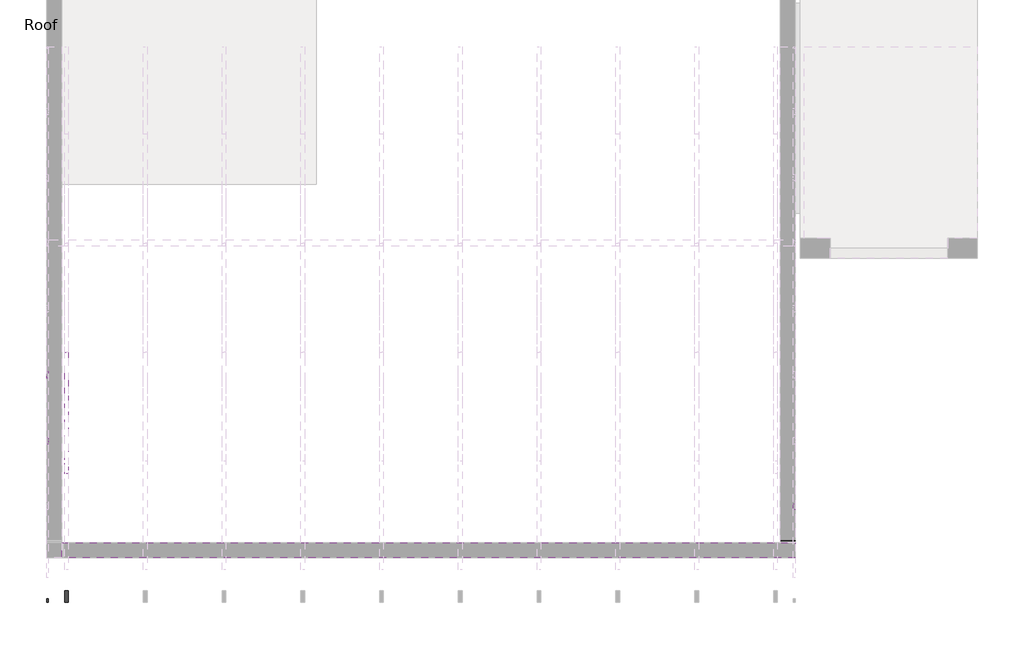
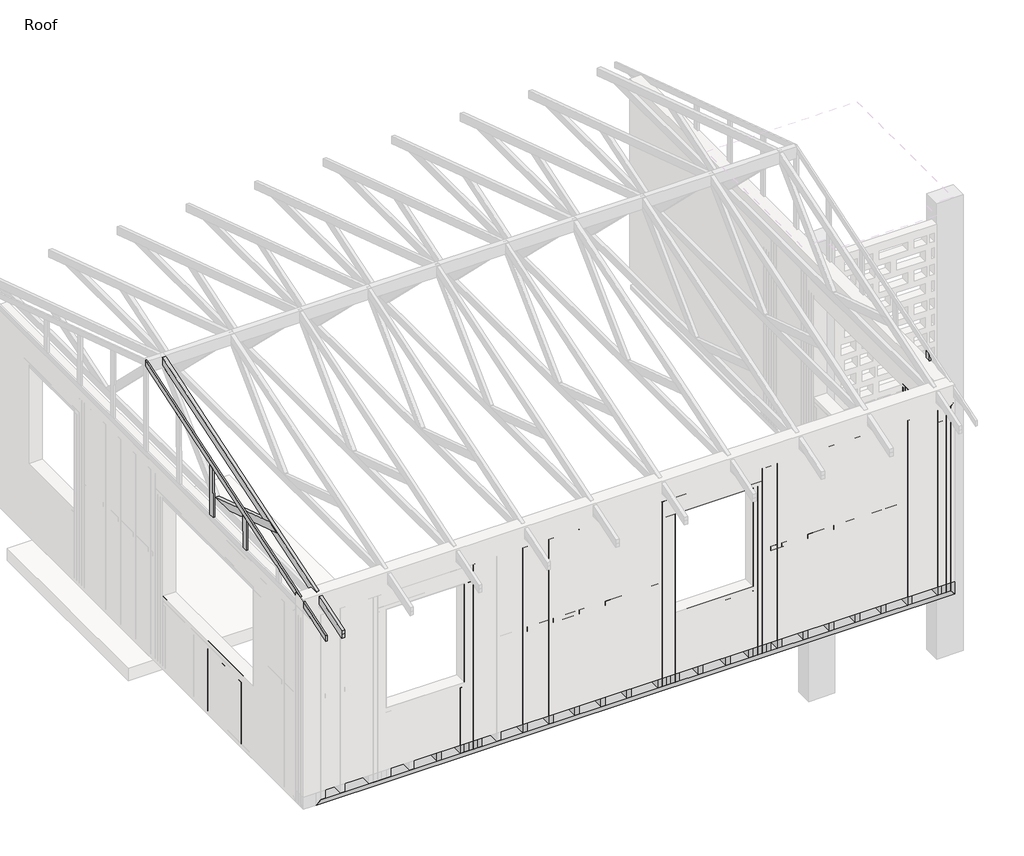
# One storey, part 2 of 6: 91 beams.
"""IFC4 building model written with IfcOpenShell, lengths in millimetres."""

from ifc_helpers import new_model, si_unit, frame, origin, place, context, project, spatial, polyline, outline, extrude, faceted_brep, transform, mapped, element, save
from components import beam_ecc59796, beam_a14fae22, beam_a3a851c1, beam_01728432, beam_9a653d77, experttrusspart_2_x_4_7bcd8695, beam_384ac97f, beam_0b2bfc08, beam_c84af2dd, beam_4715e774, beam_b8b4d0c0, beam_1b430828, beam_2766c03a, beam_8a7418d2, beam_94f9b516, beam_558964e0, beam_b7962ac8, beam_a7231d91, beam_69bc704e, beam_e05c4371, beam_19b97b81, beam_dcf95fcd, beam_7ee0b6c4, beam_cc9ad65c, beam_a9ff3a63

model = new_model("IFC4")

# Units and contexts
model_context = context("Model", 3, world=origin())
ifc_project = project(units=[si_unit("LENGTHUNIT", "METRE", prefix="MILLI")], contexts=[model_context])

# Site, building, storey
site = spatial("IfcSite", under=ifc_project)
building = spatial("IfcBuilding", under=site)
storey = spatial("IfcBuildingStorey", under=building, Name="Roof", Elevation=4267.2)

# Beams
placement = place(None, origin())
element("IfcBeam", 1, ObjectType="BraceBeam : 1\" x 3\"", at=placement, inside=storey, context=model_context, shape_type="Brep", body=[
    faceted_brep([(-11510.6862948, -25617.9763369, 5454.5282605), (-11529.7362948, -25617.9763369, 5454.5282605), (-11529.7362948, -21960.3763369, 6648.3282605), (-11510.6862948, -21960.3763369, 6648.3282605), (-11529.7362948, -25617.9763369, 5487.9266302), (-11529.7362948, -25617.9763369, 5521.325), (-11529.7362948, -21960.3763369, 6715.125), (-11529.7362948, -21960.3763369, 6681.7266302), (-11510.6862948, -25617.9763369, 5521.325), (-11510.6862948, -21960.3763369, 6715.125), (-11510.6862948, -25617.9763369, 5487.9266302), (-11510.6862948, -21960.3763369, 6681.7266302)], [[[0, 1, 2, 3]], [[4, 5, 6, 7, 2, 1]], [[5, 8, 9, 6]], [[10, 0, 3, 11, 9, 8]], [[8, 5, 4, 1, 0, 10]], [[6, 9, 11, 3, 2, 7]]]),
])
beam_shape = beam_ecc59796(model_context)
element("IfcBeam", 2, ObjectType="BraceBeam : 1\" x 3\"", at=placement, inside=storey, context=model_context, shape_type="MappedRepresentation", body=[
    mapped(beam_shape, transform((-4015.4065766, -25141.8700503, 5316.3384025), x_axis=(1.0, 0.0, 0.0), y_axis=(0.0, 0.950645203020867, -0.3102800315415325), z_axis=(0.0, 0.3102800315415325, 0.950645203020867))),
])
beam_2_shape = beam_a14fae22(model_context)
element("IfcBeam", 3, ObjectType="BraceBeam : 1\" x 3\"", at=placement, inside=storey, context=model_context, shape_type="MappedRepresentation", body=[
    mapped(beam_2_shape, transform((-11520.2112948, -23299.7521017, 5907.2757582), x_axis=(0.0, 0.009347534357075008, 0.9999563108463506), y_axis=(-1.0, 0.0, 0.0), z_axis=(0.0, -0.9999563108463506, 0.009347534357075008))),
])
beam_3_shape = beam_a3a851c1(model_context)
element("IfcBeam", 4, ObjectType="BraceBeam : 1\" x 3\"", at=placement, inside=storey, context=model_context, shape_type="MappedRepresentation", body=[
    mapped(beam_3_shape, transform((-11520.2112948, -23971.9253083, 5797.4332975), x_axis=(0.0, 0.009884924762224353, 0.9999511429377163), y_axis=(-1.0, 0.0, 0.0), z_axis=(0.0, -0.9999511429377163, 0.009884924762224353))),
])
beam_4_shape = beam_01728432(model_context)
element("IfcBeam", 5, ObjectType="BraceBeam : 1\" x 3\"", at=placement, inside=storey, context=model_context, shape_type="MappedRepresentation", body=[
    mapped(beam_4_shape, transform((-3919.2040766, -24644.0118639, 5687.6191187), x_axis=(0.0, 0.012144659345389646, 0.9999262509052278), y_axis=(-1.0, -1.352183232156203e-11, 0.0), z_axis=(1.3520834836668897e-11, -0.9999262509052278, 0.012144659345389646))),
])
beam_5_shape = beam_9a653d77(model_context)
element("IfcBeam", 6, ObjectType="BraceBeam : 1\" x 3\"", at=placement, inside=storey, context=model_context, shape_type="MappedRepresentation", body=[
    mapped(beam_5_shape, transform((-3919.2040766, -24644.0985149, 5687.5908368), x_axis=(0.0, 0.011417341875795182, 0.9999348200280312), y_axis=(-1.0, 1.0009883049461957e-12, 0.0), z_axis=(-1.0009232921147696e-12, -0.9999348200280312, 0.011417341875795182))),
])
element("IfcBeam", 7, ObjectType="Dimension Lumber : 3x6", at=placement, inside=storey, context=model_context, shape_type="SweptSolid", body=[
    extrude(outline(polyline([(-8354.6790772, -25094.1013369), (-8354.6790772, -25157.6013369), (-8659.4790766, -25157.6013369), (-8659.4790766, -25094.1013369), (-8354.6790772, -25094.1013369)])), frame((0.0, 0.0, 4248.15), z_axis=(0.0, 0.0, 1.0), x_axis=(1.0, 0.0, 0.0)), (0.0, 0.0, 1.0), 139.7),
])
element("IfcBeam", 8, ObjectType="ExpertTrussPart : 2 x 4", at=placement, inside=storey, context=model_context, shape_type="SweptSolid", body=[
    extrude(outline(polyline([(-24166.2622428, 5986.1452734), (-23070.4650535, 5628.4892463), (-23070.2152636, 5626.1), (-23349.6601858, 5626.1), (-24309.5199309, 5939.3875557), (-24237.8910869, 5962.7664146), (-24166.2622428, 5986.1452734)])), frame((-11346.7990766, 0.0, 0.0), z_axis=(1.0, 0.0, 0.0), x_axis=(0.0, 1.0, 0.0)), (0.0, 0.0, 1.0), 38.1),
])
element("IfcBeam", 9, ObjectType="ExpertTrussPart : 2 x 4", at=placement, inside=storey, context=model_context, shape_type="SweptSolid", body=[
    extrude(outline(polyline([(-24166.2622428, 5986.1452734), (-23070.4650535, 5628.4892463), (-23070.2152636, 5626.1), (-23349.6601858, 5626.1), (-24309.5199309, 5939.3875557), (-24237.8910869, 5962.7664146), (-24166.2622428, 5986.1452734)])), frame((-11346.7990766, 0.0, 0.0), z_axis=(1.0, 0.0, 0.0), x_axis=(0.0, 1.0, 0.0)), (0.0, 0.0, 1.0), 38.1),
])
experttrusspart_2_x_4_shape = experttrusspart_2_x_4_7bcd8695(model_context)
element("IfcBeam", 10, ObjectType="ExpertTrussPart : 2 x 4", at=placement, inside=storey, context=model_context, shape_type="MappedRepresentation", body=[
    mapped(experttrusspart_2_x_4_shape, transform((-11327.7490766, -23775.3843895, 6029.2111031), x_axis=(0.0, -0.9506452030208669, -0.310280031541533), y_axis=(1.0, 0.0, 0.0), z_axis=(0.0, -0.31028003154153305, 0.950645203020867))),
])
element("IfcBeam", 11, ObjectType="Rectangular(Timber)-Beam : Timber_0' - 1 31/32\" x0' - 5 29/32\" _ContentGenerator", at=placement, inside=storey, context=model_context, shape_type="SweptSolid", body=[
    extrude(outline(polyline([(-25008.3813369, 5486.4), (-24957.5813369, 5435.6), (-24957.5813369, 3149.6), (-25008.3813369, 3098.8), (-25008.3813369, 5486.4)])), frame((-4062.0790766, 0.0, 0.0), z_axis=(1.0, 0.0, 0.0), x_axis=(0.0, 1.0, 0.0)), (0.0, 0.0, 1.0), 152.4),
])
element("IfcBeam", 12, ObjectType="Rectangular(Timber)-Beam : Timber_0' - 1 31/32\" x0' - 5 29/32\" _ContentGenerator", at=placement, inside=storey, context=model_context, shape_type="SweptSolid", body=[
    extrude(outline(polyline([(3149.6, -11326.4690766), (3098.8, -11377.2690766), (3098.8, -3909.6740766), (3149.6, -3960.4740766), (3149.6, -11326.4690766)])), frame((0.0, -25160.7763369, 0.0), z_axis=(0.0, 1.0, 0.0), x_axis=(0.0, 0.0, 1.0)), (0.0, 0.0, 1.0), 152.4),
])
element("IfcBeam", 13, ObjectType="Rectangular(Timber)-Beam : Timber_0' - 1 31/32\" x0' - 5 29/32\" _ContentGenerator", at=placement, inside=storey, context=model_context, shape_type="SweptSolid", body=[
    extrude(outline(polyline([(5435.6, -3960.4740766), (5486.4, -3909.6740766), (5486.4, -11377.2690766), (5435.6, -11326.4690766), (5435.6, -3960.4740766)])), frame((0.0, -25160.7763369, 0.0), z_axis=(0.0, 1.0, 0.0), x_axis=(0.0, 0.0, 1.0)), (0.0, 0.0, 1.0), 152.4),
])
element("IfcBeam", 14, ObjectType="Rectangular(Timber)-Beam : Timber_0' - 1 31/32\" x0' - 5 29/32\" _ContentGenerator", at=placement, inside=storey, context=model_context, shape_type="SweptSolid", body=[
    extrude(outline(polyline([(5486.4, -3909.6740766), (5435.6, -3960.4740766), (3149.6, -3960.4740766), (3098.8, -3909.6740766), (5486.4, -3909.6740766)])), frame((0.0, -25160.7763369, 0.0), z_axis=(0.0, 1.0, 0.0), x_axis=(0.0, 0.0, 1.0)), (0.0, 0.0, 1.0), 152.4),
])
element("IfcBeam", 15, ObjectType="Rectangular(Timber)-Beam : Timber_0' - 1 31/32\" x0' - 5 29/32\" _ContentGenerator", at=placement, inside=storey, context=model_context, shape_type="SweptSolid", body=[
    extrude(outline(polyline([(-3909.6790766, -24525.7763369), (-3909.6790766, -24576.5763369), (-4062.0790766, -24576.5763369), (-4062.0790766, -24525.7763369), (-3909.6790766, -24525.7763369)])), frame((0.0, 0.0, 3149.6), z_axis=(0.0, 0.0, 1.0), x_axis=(1.0, 0.0, 0.0)), (0.0, 0.0, 1.0), 2286.0),
])
element("IfcBeam", 16, ObjectType="Rectangular(Timber)-Beam : Timber_0' - 1 31/32\" x0' - 5 29/32\" _ContentGenerator", at=placement, inside=storey, context=model_context, shape_type="SweptSolid", body=[
    extrude(outline(polyline([(-3909.6790766, -24576.5763369), (-3909.6790766, -24627.3763369), (-4062.0790766, -24627.3763369), (-4062.0790766, -24576.5763369), (-3909.6790766, -24576.5763369)])), frame((0.0, 0.0, 3149.6), z_axis=(0.0, 0.0, 1.0), x_axis=(1.0, 0.0, 0.0)), (0.0, 0.0, 1.0), 2286.0),
])
element("IfcBeam", 17, ObjectType="Rectangular(Timber)-Beam : Timber_0' - 1 31/32\" x0' - 5 29/32\" _ContentGenerator", at=placement, inside=storey, context=model_context, shape_type="SweptSolid", body=[
    extrude(outline(polyline([(-7333.589102, -25008.3763369), (-7282.789102, -25008.3763369), (-7282.789102, -25160.7763369), (-7333.589102, -25160.7763369), (-7333.589102, -25008.3763369)])), frame((0.0, 0.0, 3149.6), z_axis=(0.0, 0.0, 1.0), x_axis=(1.0, 0.0, 0.0)), (0.0, 0.0, 1.0), 2286.0),
])
element("IfcBeam", 18, ObjectType="Rectangular(Timber)-Beam : Timber_0' - 1 31/32\" x0' - 5 29/32\" _ContentGenerator", at=placement, inside=storey, context=model_context, shape_type="SweptSolid", body=[
    extrude(outline(polyline([(-7384.3891026, -25008.3763369), (-7333.5891026, -25008.3763369), (-7333.5891026, -25160.7763369), (-7384.3891026, -25160.7763369), (-7384.3891026, -25008.3763369)])), frame((0.0, 0.0, 3149.6), z_axis=(0.0, 0.0, 1.0), x_axis=(1.0, 0.0, 0.0)), (0.0, 0.0, 1.0), 2286.0),
])
element("IfcBeam", 19, ObjectType="Rectangular(Timber)-Beam : Timber_0' - 1 31/32\" x0' - 5 29/32\" _ContentGenerator", at=placement, inside=storey, context=model_context, shape_type="SweptSolid", body=[
    extrude(outline(polyline([(-6165.189102, -25008.3763369), (-6114.389102, -25008.3763369), (-6114.389102, -25160.7763369), (-6165.189102, -25160.7763369), (-6165.189102, -25008.3763369)])), frame((0.0, 0.0, 3149.6), z_axis=(0.0, 0.0, 1.0), x_axis=(1.0, 0.0, 0.0)), (0.0, 0.0, 1.0), 2286.0),
])
element("IfcBeam", 20, ObjectType="Rectangular(Timber)-Beam : Timber_0' - 1 31/32\" x0' - 5 29/32\" _ContentGenerator", at=placement, inside=storey, context=model_context, shape_type="SweptSolid", body=[
    extrude(outline(polyline([(-6114.3891014, -25008.3763369), (-6063.5891014, -25008.3763369), (-6063.5891014, -25160.7763369), (-6114.3891014, -25160.7763369), (-6114.3891014, -25008.3763369)])), frame((0.0, 0.0, 3149.6), z_axis=(0.0, 0.0, 1.0), x_axis=(1.0, 0.0, 0.0)), (0.0, 0.0, 1.0), 2286.0),
])
element("IfcBeam", 21, ObjectType="Rectangular(Timber)-Beam : Timber_0' - 1 31/32\" x0' - 5 29/32\" _ContentGenerator", at=placement, inside=storey, context=model_context, shape_type="SweptSolid", body=[
    extrude(outline(polyline([(-9543.399102, -25008.3763369), (-9492.599102, -25008.3763369), (-9492.599102, -25160.7763369), (-9543.399102, -25160.7763369), (-9543.399102, -25008.3763369)])), frame((0.0, 0.0, 3149.6), z_axis=(0.0, 0.0, 1.0), x_axis=(1.0, 0.0, 0.0)), (0.0, 0.0, 1.0), 2286.0),
])
element("IfcBeam", 22, ObjectType="Rectangular(Timber)-Beam : Timber_0' - 1 31/32\" x0' - 5 29/32\" _ContentGenerator", at=placement, inside=storey, context=model_context, shape_type="SweptSolid", body=[
    extrude(outline(polyline([(-9492.5991014, -25008.3763369), (-9441.7991014, -25008.3763369), (-9441.7991014, -25160.7763369), (-9492.5991014, -25160.7763369), (-9492.5991014, -25008.3763369)])), frame((0.0, 0.0, 3149.6), z_axis=(0.0, 0.0, 1.0), x_axis=(1.0, 0.0, 0.0)), (0.0, 0.0, 1.0), 2286.0),
])
beam_6_shape = beam_384ac97f(model_context)
element("IfcBeam", 23, ObjectType="Rectangular(Timber)-Beam : Timber_0' - 1 31/32\" x0' - 5 29/32\" _ContentGenerator", at=placement, inside=storey, context=model_context, shape_type="MappedRepresentation", body=[
    mapped(beam_6_shape, transform((-4262.7340893, -25084.5763369, 4413.25), x_axis=(1.0000000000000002, 0.0, 0.0), y_axis=(0.0, 0.0, -1.0000000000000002), z_axis=(0.0, 1.0000000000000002, 0.0))),
])
beam_7_shape = beam_0b2bfc08(model_context)
element("IfcBeam", 24, ObjectType="Rectangular(Timber)-Beam : Timber_0' - 1 31/32\" x0' - 5 29/32\" _ContentGenerator", at=placement, inside=storey, context=model_context, shape_type="MappedRepresentation", body=[
    mapped(beam_7_shape, transform((-3985.8790766, -24398.7763369, 4208.4625), x_axis=(0.0, 0.0, 1.0), y_axis=(0.0, -1.0, 0.0), z_axis=(1.0, 0.0, 0.0))),
])
element("IfcBeam", 25, ObjectType="Rectangular(Timber)-Beam : Timber_0' - 1 31/32\" x0' - 5 29/32\" _ContentGenerator", at=placement, inside=storey, context=model_context, shape_type="MappedRepresentation", body=[
    mapped(beam_7_shape, transform((-3985.8790766, -24449.5763369, 4208.4625), x_axis=(0.0, 0.0, 1.0), y_axis=(0.0, -1.0, 0.0), z_axis=(1.0, 0.0, 0.0))),
])
element("IfcBeam", 26, ObjectType="Rectangular(Timber)-Beam : Timber_0' - 1 31/32\" x0' - 5 29/32\" _ContentGenerator", at=placement, inside=storey, context=model_context, shape_type="MappedRepresentation", body=[
    mapped(beam_7_shape, transform((-3985.8790766, -24500.3763369, 4208.4625), x_axis=(0.0, 0.0, 1.0), y_axis=(0.0, -1.0, 0.0), z_axis=(1.0, 0.0, 0.0))),
])
beam_8_shape = beam_c84af2dd(model_context)
element("IfcBeam", 27, ObjectType="Rectangular(Timber)-Beam : Timber_0' - 1 31/32\" x0' - 5 29/32\" _ContentGenerator", at=placement, inside=storey, context=model_context, shape_type="MappedRepresentation", body=[
    mapped(beam_8_shape, transform((-3985.8790766, -24805.1813369, 4413.25), x_axis=(0.0, -1.0000000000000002, 0.0), y_axis=(0.0, 0.0, -1.0000000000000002), z_axis=(1.0000000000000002, 0.0, 0.0))),
])
beam_9_shape = beam_4715e774(model_context)
element("IfcBeam", 28, ObjectType="Rectangular(Timber)-Beam : Timber_0' - 1 31/32\" x0' - 5 29/32\" _ContentGenerator", at=placement, inside=storey, context=model_context, shape_type="MappedRepresentation", body=[
    mapped(beam_9_shape, transform((-7206.589102, -25084.5763369, 4191.0), x_axis=(0.0, 0.0, 1.0), y_axis=(1.0, 0.0, 0.0), z_axis=(0.0, 1.0, 0.0))),
])
element("IfcBeam", 29, ObjectType="Rectangular(Timber)-Beam : Timber_0' - 1 31/32\" x0' - 5 29/32\" _ContentGenerator", at=placement, inside=storey, context=model_context, shape_type="MappedRepresentation", body=[
    mapped(beam_9_shape, transform((-6241.389102, -25084.5763369, 4191.0), x_axis=(0.0, 0.0, 1.0), y_axis=(1.0, 0.0, 0.0), z_axis=(0.0, 1.0, 0.0))),
])
element("IfcBeam", 30, ObjectType="Rectangular(Timber)-Beam : Timber_0' - 1 31/32\" x0' - 5 29/32\" _ContentGenerator", at=placement, inside=storey, context=model_context, shape_type="MappedRepresentation", body=[
    mapped(beam_9_shape, transform((-7257.409102, -25084.5763369, 4191.0), x_axis=(0.0, 0.0, 1.0), y_axis=(1.0, 0.0, 0.0), z_axis=(0.0, 1.0, 0.0))),
])
element("IfcBeam", 31, ObjectType="Rectangular(Timber)-Beam : Timber_0' - 1 31/32\" x0' - 5 29/32\" _ContentGenerator", at=placement, inside=storey, context=model_context, shape_type="MappedRepresentation", body=[
    mapped(beam_9_shape, transform((-6190.579102, -25084.5763369, 4191.0), x_axis=(0.0, 0.0, 1.0), y_axis=(1.0, 0.0, 0.0), z_axis=(0.0, 1.0, 0.0))),
])
element("IfcBeam", 32, ObjectType="Rectangular(Timber)-Beam : Timber_0' - 1 31/32\" x0' - 5 29/32\" _ContentGenerator", at=placement, inside=storey, context=model_context, shape_type="MappedRepresentation", body=[
    mapped(beam_9_shape, transform((-9619.599102, -25084.5763369, 4191.0), x_axis=(0.0, 0.0, 1.0), y_axis=(1.0, 0.0, 0.0), z_axis=(0.0, 1.0, 0.0))),
])
element("IfcBeam", 33, ObjectType="Rectangular(Timber)-Beam : Timber_0' - 1 31/32\" x0' - 5 29/32\" _ContentGenerator", at=placement, inside=storey, context=model_context, shape_type="MappedRepresentation", body=[
    mapped(beam_9_shape, transform((-9568.789102, -25084.5763369, 4191.0), x_axis=(0.0, 0.0, 1.0), y_axis=(1.0, 0.0, 0.0), z_axis=(0.0, 1.0, 0.0))),
])
beam_10_shape = beam_b8b4d0c0(model_context)
element("IfcBeam", 34, ObjectType="Rectangular(Timber)-Beam : Timber_0' - 1 31/32\" x0' - 5 29/32\" _ContentGenerator", at=placement, inside=storey, context=model_context, shape_type="MappedRepresentation", body=[
    mapped(beam_10_shape, transform((-6723.989102, -25084.5763369, 5257.8), x_axis=(1.0000000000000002, 0.0, 0.0), y_axis=(0.0, 0.0, -1.0000000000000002), z_axis=(0.0, 1.0000000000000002, 0.0))),
])
beam_11_shape = beam_1b430828(model_context)
element("IfcBeam", 35, ObjectType="Rectangular(Timber)-Beam : Timber_0' - 1 31/32\" x0' - 5 29/32\" _ContentGenerator", at=placement, inside=storey, context=model_context, shape_type="MappedRepresentation", body=[
    mapped(beam_11_shape, transform((-6012.7941017, -25084.5763369, 4413.25), x_axis=(1.0000000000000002, 0.0, 0.0), y_axis=(0.0, 0.0, -1.0000000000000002), z_axis=(0.0, 1.0000000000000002, 0.0))),
])
beam_12_shape = beam_2766c03a(model_context)
element("IfcBeam", 36, ObjectType="Rectangular(Timber)-Beam : Timber_0' - 1 31/32\" x0' - 5 29/32\" _ContentGenerator", at=placement, inside=storey, context=model_context, shape_type="MappedRepresentation", body=[
    mapped(beam_12_shape, transform((-7552.0340896, -25084.5763369, 4413.25), x_axis=(1.0000000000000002, 0.0, 0.0), y_axis=(0.0, 0.0, -1.0000000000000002), z_axis=(0.0, 1.0000000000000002, 0.0))),
])
beam_13_shape = beam_8a7418d2(model_context)
element("IfcBeam", 37, ObjectType="Rectangular(Timber)-Beam : Timber_0' - 1 31/32\" x0' - 5 29/32\" _ContentGenerator", at=placement, inside=storey, context=model_context, shape_type="MappedRepresentation", body=[
    mapped(beam_13_shape, transform((-6723.989102, -25135.3763369, 5359.4), x_axis=(1.0, 0.0, 0.0), y_axis=(0.0, 1.0, 0.0), z_axis=(0.0, 0.0, 1.0))),
])
beam_14_shape = beam_94f9b516(model_context)
element("IfcBeam", 38, ObjectType="Rectangular(Timber)-Beam : Timber_0' - 1 31/32\" x0' - 5 29/32\" _ContentGenerator", at=placement, inside=storey, context=model_context, shape_type="MappedRepresentation", body=[
    mapped(beam_14_shape, transform((-3985.8790766, -24093.9763369, 3530.6), x_axis=(0.0, 0.0, 1.0), y_axis=(0.0, -1.0, 0.0), z_axis=(1.0, 0.0, 0.0))),
])
element("IfcBeam", 39, ObjectType="Rectangular(Timber)-Beam : Timber_0' - 1 31/32\" x0' - 5 29/32\" _ContentGenerator", at=placement, inside=storey, context=model_context, shape_type="MappedRepresentation", body=[
    mapped(beam_14_shape, transform((-11453.4790766, -23204.9863369, 3530.6), x_axis=(0.0, 0.0, 1.0), y_axis=(0.0, -1.0, 0.0), z_axis=(1.0, 0.0, 0.0))),
])
element("IfcBeam", 40, ObjectType="Rectangular(Timber)-Beam : Timber_0' - 1 31/32\" x0' - 5 29/32\" _ContentGenerator", at=placement, inside=storey, context=model_context, shape_type="MappedRepresentation", body=[
    mapped(beam_14_shape, transform((-11453.4790766, -23543.6496702, 3530.6), x_axis=(0.0, 0.0, 1.0), y_axis=(0.0, -1.0, 0.0), z_axis=(1.0, 0.0, 0.0))),
])
element("IfcBeam", 41, ObjectType="Rectangular(Timber)-Beam : Timber_0' - 1 31/32\" x0' - 5 29/32\" _ContentGenerator", at=placement, inside=storey, context=model_context, shape_type="MappedRepresentation", body=[
    mapped(beam_14_shape, transform((-11453.4790766, -23882.3130036, 3530.6), x_axis=(0.0, 0.0, 1.0), y_axis=(0.0, -1.0, 0.0), z_axis=(1.0, 0.0, 0.0))),
])
element("IfcBeam", 42, ObjectType="Rectangular(Timber)-Beam : Timber_0' - 1 31/32\" x0' - 5 29/32\" _ContentGenerator", at=placement, inside=storey, context=model_context, shape_type="MappedRepresentation", body=[
    mapped(beam_14_shape, transform((-3985.8790766, -24347.9763369, 3530.6), x_axis=(0.0, 0.0, 1.0), y_axis=(0.0, -1.0, 0.0), z_axis=(1.0, 0.0, 0.0))),
])
beam_15_shape = beam_558964e0(model_context)
element("IfcBeam", 43, ObjectType="Rectangular(Timber)-Beam : Timber_0' - 1 31/32\" x0' - 5 29/32\" _ContentGenerator", at=placement, inside=storey, context=model_context, shape_type="MappedRepresentation", body=[
    mapped(beam_15_shape, transform((-3985.8790766, -24932.1863369, 4292.6), x_axis=(0.0, 0.0, 1.0), y_axis=(0.0, -1.0, 0.0), z_axis=(1.0, 0.0, 0.0))),
])
element("IfcBeam", 44, ObjectType="Rectangular(Timber)-Beam : Timber_0' - 1 31/32\" x0' - 5 29/32\" _ContentGenerator", at=placement, inside=storey, context=model_context, shape_type="MappedRepresentation", body=[
    mapped(beam_15_shape, transform((-8938.8790766, -25084.5763369, 4292.6), x_axis=(0.0, 0.0, 1.0), y_axis=(1.0, 0.0, 0.0), z_axis=(0.0, 1.0, 0.0))),
])
element("IfcBeam", 45, ObjectType="Rectangular(Timber)-Beam : Timber_0' - 1 31/32\" x0' - 5 29/32\" _ContentGenerator", at=placement, inside=storey, context=model_context, shape_type="MappedRepresentation", body=[
    mapped(beam_15_shape, transform((-8634.0790766, -25084.5763369, 4292.6), x_axis=(0.0, 0.0, 1.0), y_axis=(1.0, 0.0, 0.0), z_axis=(0.0, 1.0, 0.0))),
])
element("IfcBeam", 46, ObjectType="Rectangular(Timber)-Beam : Timber_0' - 1 31/32\" x0' - 5 29/32\" _ContentGenerator", at=placement, inside=storey, context=model_context, shape_type="MappedRepresentation", body=[
    mapped(beam_15_shape, transform((-8329.2790766, -25084.5763369, 4292.6), x_axis=(0.0, 0.0, 1.0), y_axis=(1.0, 0.0, 0.0), z_axis=(0.0, 1.0, 0.0))),
])
element("IfcBeam", 47, ObjectType="Rectangular(Timber)-Beam : Timber_0' - 1 31/32\" x0' - 5 29/32\" _ContentGenerator", at=placement, inside=storey, context=model_context, shape_type="MappedRepresentation", body=[
    mapped(beam_15_shape, transform((-8024.4790766, -25084.5763369, 4292.6), x_axis=(0.0, 0.0, 1.0), y_axis=(1.0, 0.0, 0.0), z_axis=(0.0, 1.0, 0.0))),
])
element("IfcBeam", 48, ObjectType="Rectangular(Timber)-Beam : Timber_0' - 1 31/32\" x0' - 5 29/32\" _ContentGenerator", at=placement, inside=storey, context=model_context, shape_type="MappedRepresentation", body=[
    mapped(beam_15_shape, transform((-7719.6790766, -25084.5763369, 4292.6), x_axis=(0.0, 0.0, 1.0), y_axis=(1.0, 0.0, 0.0), z_axis=(0.0, 1.0, 0.0))),
])
element("IfcBeam", 49, ObjectType="Rectangular(Timber)-Beam : Timber_0' - 1 31/32\" x0' - 5 29/32\" _ContentGenerator", at=placement, inside=storey, context=model_context, shape_type="MappedRepresentation", body=[
    mapped(beam_15_shape, transform((-3985.8690766, -25084.5763369, 4292.6), x_axis=(0.0, 0.0, 1.0), y_axis=(1.0, 0.0, 0.0), z_axis=(0.0, 1.0, 0.0))),
])
element("IfcBeam", 50, ObjectType="Rectangular(Timber)-Beam : Timber_0' - 1 31/32\" x0' - 5 29/32\" _ContentGenerator", at=placement, inside=storey, context=model_context, shape_type="MappedRepresentation", body=[
    mapped(beam_15_shape, transform((-4036.6690766, -25084.5763369, 4292.6), x_axis=(0.0, 0.0, 1.0), y_axis=(1.0, 0.0, 0.0), z_axis=(0.0, 1.0, 0.0))),
])
element("IfcBeam", 51, ObjectType="Rectangular(Timber)-Beam : Timber_0' - 1 31/32\" x0' - 5 29/32\" _ContentGenerator", at=placement, inside=storey, context=model_context, shape_type="MappedRepresentation", body=[
    mapped(beam_15_shape, transform((-5961.999102, -25084.5763369, 4292.6), x_axis=(0.0, 0.0, 1.0), y_axis=(1.0, 0.0, 0.0), z_axis=(0.0, 1.0, 0.0))),
])
element("IfcBeam", 52, ObjectType="Rectangular(Timber)-Beam : Timber_0' - 1 31/32\" x0' - 5 29/32\" _ContentGenerator", at=placement, inside=storey, context=model_context, shape_type="MappedRepresentation", body=[
    mapped(beam_15_shape, transform((-5657.199102, -25084.5763369, 4292.6), x_axis=(0.0, 0.0, 1.0), y_axis=(1.0, 0.0, 0.0), z_axis=(0.0, 1.0, 0.0))),
])
element("IfcBeam", 53, ObjectType="Rectangular(Timber)-Beam : Timber_0' - 1 31/32\" x0' - 5 29/32\" _ContentGenerator", at=placement, inside=storey, context=model_context, shape_type="MappedRepresentation", body=[
    mapped(beam_15_shape, transform((-5352.399102, -25084.5763369, 4292.6), x_axis=(0.0, 0.0, 1.0), y_axis=(1.0, 0.0, 0.0), z_axis=(0.0, 1.0, 0.0))),
])
element("IfcBeam", 54, ObjectType="Rectangular(Timber)-Beam : Timber_0' - 1 31/32\" x0' - 5 29/32\" _ContentGenerator", at=placement, inside=storey, context=model_context, shape_type="MappedRepresentation", body=[
    mapped(beam_15_shape, transform((-5047.599102, -25084.5763369, 4292.6), x_axis=(0.0, 0.0, 1.0), y_axis=(1.0, 0.0, 0.0), z_axis=(0.0, 1.0, 0.0))),
])
element("IfcBeam", 55, ObjectType="Rectangular(Timber)-Beam : Timber_0' - 1 31/32\" x0' - 5 29/32\" _ContentGenerator", at=placement, inside=storey, context=model_context, shape_type="MappedRepresentation", body=[
    mapped(beam_15_shape, transform((-4742.799102, -25084.5763369, 4292.6), x_axis=(0.0, 0.0, 1.0), y_axis=(1.0, 0.0, 0.0), z_axis=(0.0, 1.0, 0.0))),
])
element("IfcBeam", 56, ObjectType="Rectangular(Timber)-Beam : Timber_0' - 1 31/32\" x0' - 5 29/32\" _ContentGenerator", at=placement, inside=storey, context=model_context, shape_type="MappedRepresentation", body=[
    mapped(beam_15_shape, transform((-4437.999102, -25084.5763369, 4292.6), x_axis=(0.0, 0.0, 1.0), y_axis=(1.0, 0.0, 0.0), z_axis=(0.0, 1.0, 0.0))),
])
element("IfcBeam", 57, ObjectType="Rectangular(Timber)-Beam : Timber_0' - 1 31/32\" x0' - 5 29/32\" _ContentGenerator", at=placement, inside=storey, context=model_context, shape_type="MappedRepresentation", body=[
    mapped(beam_15_shape, transform((-4087.4690766, -25084.5763369, 4292.6), x_axis=(0.0, 0.0, 1.0), y_axis=(1.0, 0.0, 0.0), z_axis=(0.0, 1.0, 0.0))),
])
element("IfcBeam", 58, ObjectType="Rectangular(Timber)-Beam : Timber_0' - 1 31/32\" x0' - 5 29/32\" _ContentGenerator", at=placement, inside=storey, context=model_context, shape_type="MappedRepresentation", body=[
    mapped(beam_15_shape, transform((-3985.8790766, -24652.7763369, 4292.6), x_axis=(0.0, 0.0, 1.0), y_axis=(0.0, -1.0, 0.0), z_axis=(1.0, 0.0, 0.0))),
])
beam_16_shape = beam_b7962ac8(model_context)
element("IfcBeam", 59, ObjectType="Rectangular(Timber)-Beam : Timber_0' - 1 31/32\" x0' - 5 29/32\" _ContentGenerator", at=placement, inside=storey, context=model_context, shape_type="MappedRepresentation", body=[
    mapped(beam_16_shape, transform((-7155.789102, -25084.5763369, 3556.0), x_axis=(0.0, 0.0, 1.0), y_axis=(1.0, 0.0, 0.0), z_axis=(0.0, 1.0, 0.0))),
])
element("IfcBeam", 60, ObjectType="Rectangular(Timber)-Beam : Timber_0' - 1 31/32\" x0' - 5 29/32\" _ContentGenerator", at=placement, inside=storey, context=model_context, shape_type="MappedRepresentation", body=[
    mapped(beam_16_shape, transform((-6292.189102, -25084.5763369, 3556.0), x_axis=(0.0, 0.0, 1.0), y_axis=(1.0, 0.0, 0.0), z_axis=(0.0, 1.0, 0.0))),
])
element("IfcBeam", 61, ObjectType="Rectangular(Timber)-Beam : Timber_0' - 1 31/32\" x0' - 5 29/32\" _ContentGenerator", at=placement, inside=storey, context=model_context, shape_type="MappedRepresentation", body=[
    mapped(beam_16_shape, transform((-6884.8657686, -25084.5763369, 3556.0), x_axis=(0.0, 0.0, 1.0), y_axis=(1.0, 0.0, 0.0), z_axis=(0.0, 1.0, 0.0))),
])
element("IfcBeam", 62, ObjectType="Rectangular(Timber)-Beam : Timber_0' - 1 31/32\" x0' - 5 29/32\" _ContentGenerator", at=placement, inside=storey, context=model_context, shape_type="MappedRepresentation", body=[
    mapped(beam_16_shape, transform((-6563.1324353, -25084.5763369, 3556.0), x_axis=(0.0, 0.0, 1.0), y_axis=(1.0, 0.0, 0.0), z_axis=(0.0, 1.0, 0.0))),
])
element("IfcBeam", 63, ObjectType="Rectangular(Timber)-Beam : Timber_0' - 1 31/32\" x0' - 5 29/32\" _ContentGenerator", at=placement, inside=storey, context=model_context, shape_type="MappedRepresentation", body=[
    mapped(beam_16_shape, transform((-9670.399102, -25084.5763369, 3556.0), x_axis=(0.0, 0.0, 1.0), y_axis=(1.0, 0.0, 0.0), z_axis=(0.0, 1.0, 0.0))),
])
element("IfcBeam", 64, ObjectType="Rectangular(Timber)-Beam : Timber_0' - 1 31/32\" x0' - 5 29/32\" _ContentGenerator", at=placement, inside=storey, context=model_context, shape_type="MappedRepresentation", body=[
    mapped(beam_16_shape, transform((-9941.3424353, -25084.5763369, 3556.0), x_axis=(0.0, 0.0, 1.0), y_axis=(1.0, 0.0, 0.0), z_axis=(0.0, 1.0, 0.0))),
])
beam_17_shape = beam_a7231d91(model_context)
element("IfcBeam", 65, ObjectType="Rectangular(Timber)-Beam : Timber_0' - 1 31/32\" x0' - 5 29/32\" _ContentGenerator", at=placement, inside=storey, context=model_context, shape_type="MappedRepresentation", body=[
    mapped(beam_17_shape, transform((-6723.999102, -25033.7763369, 5359.4), x_axis=(1.0, 0.0, 0.0), y_axis=(0.0, 1.0, 0.0), z_axis=(0.0, 0.0, 1.0))),
])
beam_18_shape = beam_69bc704e(model_context)
element("IfcBeam", 66, ObjectType="Rectangular(Timber)-Beam : Timber_0' - 1 31/32\" x0' - 5 29/32\" _ContentGenerator", at=placement, inside=storey, context=model_context, shape_type="MappedRepresentation", body=[
    mapped(beam_18_shape, transform((-7643.4790766, -25084.5763369, 5511.8), x_axis=(1.0000000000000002, 0.0, 0.0), y_axis=(0.0, 0.0, -1.0000000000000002), z_axis=(0.0, 1.0000000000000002, 0.0))),
])
beam_19_shape = beam_e05c4371(model_context)
element("IfcBeam", 67, ObjectType="Rectangular(Timber)-Beam : Timber_0' - 1 31/32\" x0' - 5 29/32\" _ContentGenerator", at=placement, inside=storey, context=model_context, shape_type="MappedRepresentation", body=[
    mapped(beam_19_shape, transform((-6723.989102, -25084.5763369, 3987.8), x_axis=(1.0000000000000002, 0.0, 0.0), y_axis=(0.0, 0.0, -1.0000000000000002), z_axis=(0.0, 1.0000000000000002, 0.0))),
])
beam_20_shape = beam_19b97b81(model_context)
element("IfcBeam", 68, ObjectType="Rectangular(Timber)-Beam : Timber_0' - 1 31/32\" x0' - 5 29/32\" _ContentGenerator", at=placement, inside=storey, context=model_context, shape_type="MappedRepresentation", body=[
    mapped(beam_20_shape, transform((-8786.4790766, -25084.5763369, 4413.25), x_axis=(1.0000000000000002, 0.0, 0.0), y_axis=(0.0, 0.0, -1.0000000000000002), z_axis=(0.0, 1.0000000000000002, 0.0))),
])
element("IfcBeam", 69, ObjectType="Rectangular(Timber)-Beam : Timber_0' - 1 31/32\" x0' - 5 29/32\" _ContentGenerator", at=placement, inside=storey, context=model_context, shape_type="MappedRepresentation", body=[
    mapped(beam_20_shape, transform((-8481.6790766, -25084.5763369, 4413.25), x_axis=(1.0000000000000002, 0.0, 0.0), y_axis=(0.0, 0.0, -1.0000000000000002), z_axis=(0.0, 1.0000000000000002, 0.0))),
])
element("IfcBeam", 70, ObjectType="Rectangular(Timber)-Beam : Timber_0' - 1 31/32\" x0' - 5 29/32\" _ContentGenerator", at=placement, inside=storey, context=model_context, shape_type="MappedRepresentation", body=[
    mapped(beam_20_shape, transform((-8176.8790766, -25084.5763369, 4413.25), x_axis=(1.0000000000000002, 0.0, 0.0), y_axis=(0.0, 0.0, -1.0000000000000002), z_axis=(0.0, 1.0000000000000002, 0.0))),
])
element("IfcBeam", 71, ObjectType="Rectangular(Timber)-Beam : Timber_0' - 1 31/32\" x0' - 5 29/32\" _ContentGenerator", at=placement, inside=storey, context=model_context, shape_type="MappedRepresentation", body=[
    mapped(beam_20_shape, transform((-7872.0790766, -25084.5763369, 4413.25), x_axis=(1.0000000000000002, 0.0, 0.0), y_axis=(0.0, 0.0, -1.0000000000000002), z_axis=(0.0, 1.0000000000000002, 0.0))),
])
element("IfcBeam", 72, ObjectType="Rectangular(Timber)-Beam : Timber_0' - 1 31/32\" x0' - 5 29/32\" _ContentGenerator", at=placement, inside=storey, context=model_context, shape_type="MappedRepresentation", body=[
    mapped(beam_20_shape, transform((-5809.599102, -25084.5763369, 4413.25), x_axis=(1.0000000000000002, 0.0, 0.0), y_axis=(0.0, 0.0, -1.0000000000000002), z_axis=(0.0, 1.0000000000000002, 0.0))),
])
element("IfcBeam", 73, ObjectType="Rectangular(Timber)-Beam : Timber_0' - 1 31/32\" x0' - 5 29/32\" _ContentGenerator", at=placement, inside=storey, context=model_context, shape_type="MappedRepresentation", body=[
    mapped(beam_20_shape, transform((-5504.799102, -25084.5763369, 4413.25), x_axis=(1.0000000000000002, 0.0, 0.0), y_axis=(0.0, 0.0, -1.0000000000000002), z_axis=(0.0, 1.0000000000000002, 0.0))),
])
element("IfcBeam", 74, ObjectType="Rectangular(Timber)-Beam : Timber_0' - 1 31/32\" x0' - 5 29/32\" _ContentGenerator", at=placement, inside=storey, context=model_context, shape_type="MappedRepresentation", body=[
    mapped(beam_20_shape, transform((-5199.999102, -25084.5763369, 4413.25), x_axis=(1.0000000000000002, 0.0, 0.0), y_axis=(0.0, 0.0, -1.0000000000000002), z_axis=(0.0, 1.0000000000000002, 0.0))),
])
element("IfcBeam", 75, ObjectType="Rectangular(Timber)-Beam : Timber_0' - 1 31/32\" x0' - 5 29/32\" _ContentGenerator", at=placement, inside=storey, context=model_context, shape_type="MappedRepresentation", body=[
    mapped(beam_20_shape, transform((-4895.199102, -25084.5763369, 4413.25), x_axis=(1.0000000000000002, 0.0, 0.0), y_axis=(0.0, 0.0, -1.0000000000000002), z_axis=(0.0, 1.0000000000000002, 0.0))),
])
element("IfcBeam", 76, ObjectType="Rectangular(Timber)-Beam : Timber_0' - 1 31/32\" x0' - 5 29/32\" _ContentGenerator", at=placement, inside=storey, context=model_context, shape_type="MappedRepresentation", body=[
    mapped(beam_20_shape, transform((-4590.399102, -25084.5763369, 4413.25), x_axis=(1.0000000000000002, 0.0, 0.0), y_axis=(0.0, 0.0, -1.0000000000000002), z_axis=(0.0, 1.0000000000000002, 0.0))),
])
beam_21_shape = beam_dcf95fcd(model_context)
element("IfcBeam", 77, ObjectType="Rectangular(Timber)-Beam : Timber_0' - 1 31/32\" x0' - 5 29/32\" _ContentGenerator", at=placement, inside=storey, context=model_context, shape_type="MappedRepresentation", body=[
    mapped(beam_21_shape, transform((-11402.6790766, -23230.3813369, 5359.4), x_axis=(0.0, -1.0, 0.0), y_axis=(1.0, 0.0, 0.0), z_axis=(0.0, 0.0, 1.0))),
])
beam_22_shape = beam_7ee0b6c4(model_context)
element("IfcBeam", 78, ObjectType="Rectangular(Timber)-Beam : Timber_0' - 1 31/32\" x0' - 5 29/32\" _ContentGenerator", at=placement, inside=storey, context=model_context, shape_type="MappedRepresentation", body=[
    mapped(beam_22_shape, transform((-11453.4790766, -23230.3913369, 3987.8), x_axis=(0.0, -1.0000000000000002, 0.0), y_axis=(0.0, 0.0, -1.0000000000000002), z_axis=(1.0000000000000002, 0.0, 0.0))),
])
element("IfcBeam", 79, ObjectType="WallPlates : 6\" x 3\"", at=placement, inside=storey, context=model_context, shape_type="SweptSolid", body=[
    extrude(outline(polyline([(-8964.2790766, -25157.6013369), (-8964.2790766, -25094.1013369), (-8659.4790766, -25094.1013369), (-8659.4790766, -25157.6013369), (-8964.2790766, -25157.6013369)])), frame((0.0, 0.0, 4248.15), z_axis=(0.0, 0.0, 1.0), x_axis=(1.0, 0.0, 0.0)), (0.0, 0.0, 1.0), 139.7),
])
element("IfcBeam", 80, ObjectType="WallPlates : 6\" x 3\"", at=placement, inside=storey, context=model_context, shape_type="SweptSolid", body=[
    extrude(outline(polyline([(-8354.6790766, -25157.6013369), (-8354.6790766, -25094.1013369), (-8049.8790766, -25094.1013369), (-8049.8790766, -25157.6013369), (-8354.6790766, -25157.6013369)])), frame((0.0, 0.0, 4248.15), z_axis=(0.0, 0.0, 1.0), x_axis=(1.0, 0.0, 0.0)), (0.0, 0.0, 1.0), 139.7),
])
element("IfcBeam", 81, ObjectType="WallPlates : 6\" x 3\"", at=placement, inside=storey, context=model_context, shape_type="SweptSolid", body=[
    extrude(outline(polyline([(-8049.8790766, -25157.6013369), (-8049.8790766, -25094.1013369), (-7745.0790766, -25094.1013369), (-7745.0790766, -25157.6013369), (-8049.8790766, -25157.6013369)])), frame((0.0, 0.0, 4248.15), z_axis=(0.0, 0.0, 1.0), x_axis=(1.0, 0.0, 0.0)), (0.0, 0.0, 1.0), 139.7),
])
element("IfcBeam", 82, ObjectType="WallPlates : 6\" x 3\"", at=placement, inside=storey, context=model_context, shape_type="SweptSolid", body=[
    extrude(outline(polyline([(-7745.0790766, -25157.6013369), (-7745.0790766, -25094.1013369), (-7384.3891026, -25094.1013369), (-7384.3891026, -25157.6013369), (-7745.0790766, -25157.6013369)])), frame((0.0, 0.0, 4248.15), z_axis=(0.0, 0.0, 1.0), x_axis=(1.0, 0.0, 0.0)), (0.0, 0.0, 1.0), 139.7),
])
element("IfcBeam", 83, ObjectType="WallPlates : 6\" x 3\"", at=placement, inside=storey, context=model_context, shape_type="SweptSolid", body=[
    extrude(outline(polyline([(-6165.189102, -25157.6013369), (-6165.189102, -25094.1013369), (-5987.399102, -25094.1013369), (-5987.399102, -25157.6013369), (-6165.189102, -25157.6013369)])), frame((0.0, 0.0, 4248.15), z_axis=(0.0, 0.0, 1.0), x_axis=(1.0, 0.0, 0.0)), (0.0, 0.0, 1.0), 139.7),
])
element("IfcBeam", 84, ObjectType="WallPlates : 6\" x 3\"", at=placement, inside=storey, context=model_context, shape_type="SweptSolid", body=[
    extrude(outline(polyline([(-5987.399102, -25157.6013369), (-5987.399102, -25094.1013369), (-5682.599102, -25094.1013369), (-5682.599102, -25157.6013369), (-5987.399102, -25157.6013369)])), frame((0.0, 0.0, 4248.15), z_axis=(0.0, 0.0, 1.0), x_axis=(1.0, 0.0, 0.0)), (0.0, 0.0, 1.0), 139.7),
])
element("IfcBeam", 85, ObjectType="WallPlates : 6\" x 3\"", at=placement, inside=storey, context=model_context, shape_type="SweptSolid", body=[
    extrude(outline(polyline([(-5682.599102, -25157.6013369), (-5682.599102, -25094.1013369), (-5377.799102, -25094.1013369), (-5377.799102, -25157.6013369), (-5682.599102, -25157.6013369)])), frame((0.0, 0.0, 4248.15), z_axis=(0.0, 0.0, 1.0), x_axis=(1.0, 0.0, 0.0)), (0.0, 0.0, 1.0), 139.7),
])
element("IfcBeam", 86, ObjectType="WallPlates : 6\" x 3\"", at=placement, inside=storey, context=model_context, shape_type="SweptSolid", body=[
    extrude(outline(polyline([(-5377.799102, -25157.6013369), (-5377.799102, -25094.1013369), (-5072.999102, -25094.1013369), (-5072.999102, -25157.6013369), (-5377.799102, -25157.6013369)])), frame((0.0, 0.0, 4248.15), z_axis=(0.0, 0.0, 1.0), x_axis=(1.0, 0.0, 0.0)), (0.0, 0.0, 1.0), 139.7),
])
element("IfcBeam", 87, ObjectType="WallPlates : 6\" x 3\"", at=placement, inside=storey, context=model_context, shape_type="SweptSolid", body=[
    extrude(outline(polyline([(-5072.999102, -25157.6013369), (-5072.999102, -25094.1013369), (-4768.199102, -25094.1013369), (-4768.199102, -25157.6013369), (-5072.999102, -25157.6013369)])), frame((0.0, 0.0, 4248.15), z_axis=(0.0, 0.0, 1.0), x_axis=(1.0, 0.0, 0.0)), (0.0, 0.0, 1.0), 139.7),
])
element("IfcBeam", 88, ObjectType="WallPlates : 6\" x 3\"", at=placement, inside=storey, context=model_context, shape_type="SweptSolid", body=[
    extrude(outline(polyline([(-4768.199102, -25157.6013369), (-4768.199102, -25094.1013369), (-4463.399102, -25094.1013369), (-4463.399102, -25157.6013369), (-4768.199102, -25157.6013369)])), frame((0.0, 0.0, 4248.15), z_axis=(0.0, 0.0, 1.0), x_axis=(1.0, 0.0, 0.0)), (0.0, 0.0, 1.0), 139.7),
])
element("IfcBeam", 89, ObjectType="WallPlates : 6\" x 3\"", at=placement, inside=storey, context=model_context, shape_type="SweptSolid", body=[
    extrude(outline(polyline([(-4463.399102, -25157.6013369), (-4463.399102, -25094.1013369), (-4112.8690766, -25094.1013369), (-4112.8690766, -25157.6013369), (-4463.399102, -25157.6013369)])), frame((0.0, 0.0, 4248.15), z_axis=(0.0, 0.0, 1.0), x_axis=(1.0, 0.0, 0.0)), (0.0, 0.0, 1.0), 139.7),
])
beam_23_shape = beam_cc9ad65c(model_context)
element("IfcBeam", 90, ObjectType="WallPlates : 6\" x 3\"", at=placement, inside=storey, context=model_context, shape_type="MappedRepresentation", body=[
    mapped(beam_23_shape, transform((-3947.7790766, -24792.4813369, 4318.0), x_axis=(0.0, -1.0000000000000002, 0.0), y_axis=(0.0, 0.0, -1.0000000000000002), z_axis=(1.0000000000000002, 0.0, 0.0))),
])
beam_24_shape = beam_a9ff3a63(model_context)
element("IfcBeam", 91, ObjectType="WallPlates : 8\" x 2\"", at=placement, inside=storey, context=model_context, shape_type="MappedRepresentation", body=[
    mapped(beam_24_shape, transform((-11504.2790766, -23230.3913369, 5343.525), x_axis=(0.0, -1.0, 0.0), y_axis=(0.0, 0.0, -1.0), z_axis=(1.0, 0.0, 0.0))),
])

save(model, "model.ifc")
